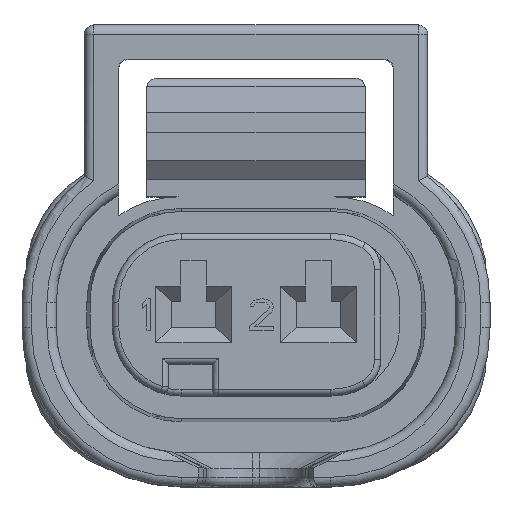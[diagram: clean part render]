
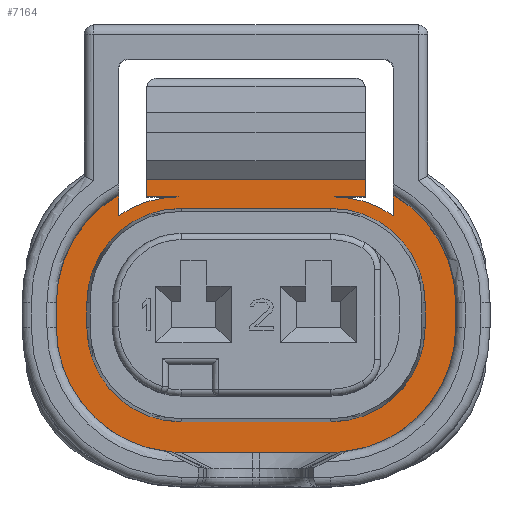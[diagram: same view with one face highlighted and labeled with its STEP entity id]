
A CAD part, top view. The second image highlights one B-rep face of the part: STEP entity #7164.
In plain terms, the highlighted planar face has unit normal (0, 0, 1).
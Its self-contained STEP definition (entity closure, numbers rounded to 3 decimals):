
#133=CARTESIAN_POINT('',(-2.4,0.4,-17.8));
#134=DIRECTION('',(0.,0.,-1.));
#135=DIRECTION('',(-1.,0.,0.));
#136=AXIS2_PLACEMENT_3D('',#133,#134,#135);
#138=CARTESIAN_POINT('',(-2.5,0.5,-17.8));
#139=DIRECTION('',(0.,0.,1.));
#140=DIRECTION('',(0.,1.,0.));
#141=AXIS2_PLACEMENT_3D('',#138,#139,#140);
#143=DIRECTION('',(1.,0.,0.));
#144=VECTOR('',#143,7.);
#145=CARTESIAN_POINT('',(-3.5,4.35,-17.8));
#146=LINE('',#145,#144);
#147=CARTESIAN_POINT('',(2.5,0.5,-17.8));
#148=DIRECTION('',(0.,0.,1.));
#149=DIRECTION('',(0.576,0.818,0.));
#150=AXIS2_PLACEMENT_3D('',#147,#148,#149);
#152=DIRECTION('',(0.,1.,0.));
#153=VECTOR('',#152,0.666);
#154=CARTESIAN_POINT('',(4.4,3.198,-17.8));
#155=LINE('',#154,#153);
#156=CARTESIAN_POINT('',(2.4,0.4,-17.8));
#157=DIRECTION('',(0.,0.,-1.));
#158=DIRECTION('',(0.5,0.866,0.));
#159=AXIS2_PLACEMENT_3D('',#156,#157,#158);
#161=DIRECTION('',(0.,-1.,0.));
#162=VECTOR('',#161,0.8);
#163=CARTESIAN_POINT('',(6.4,0.4,-17.8));
#164=LINE('',#163,#162);
#165=CARTESIAN_POINT('',(2.4,-0.4,-17.8));
#166=DIRECTION('',(0.,0.,-1.));
#167=DIRECTION('',(1.,0.,0.));
#168=AXIS2_PLACEMENT_3D('',#165,#166,#167);
#170=DIRECTION('',(-1.,0.,0.));
#171=VECTOR('',#170,4.8);
#172=CARTESIAN_POINT('',(2.4,-4.4,-17.8));
#173=LINE('',#172,#171);
#174=CARTESIAN_POINT('',(-2.4,-0.4,-17.8));
#175=DIRECTION('',(0.,0.,-1.));
#176=DIRECTION('',(0.,-1.,0.));
#177=AXIS2_PLACEMENT_3D('',#174,#175,#176);
#179=DIRECTION('',(0.,1.,0.));
#180=VECTOR('',#179,0.8);
#181=CARTESIAN_POINT('',(-6.4,-0.4,-17.8));
#182=LINE('',#181,#180);
#183=CARTESIAN_POINT('',(-2.4,0.4,-17.8));
#184=DIRECTION('',(0.,0.,-1.));
#185=DIRECTION('',(-1.,0.,0.));
#186=AXIS2_PLACEMENT_3D('',#183,#184,#185);
#188=DIRECTION('',(0.,-1.,0.));
#189=VECTOR('',#188,0.666);
#190=CARTESIAN_POINT('',(-4.4,3.864,-17.8));
#191=LINE('',#190,#189);
#192=DIRECTION('',(0.,1.,0.));
#193=VECTOR('',#192,0.8);
#194=CARTESIAN_POINT('',(-5.1,-0.4,-17.8));
#195=LINE('',#194,#193);
#2978=DIRECTION('',(1.,0.,0.));
#2979=VECTOR('',#2978,4.8);
#2980=CARTESIAN_POINT('',(-2.4,3.1,-17.8));
#2981=LINE('',#2980,#2979);
#2986=CARTESIAN_POINT('',(2.4,0.4,-17.8));
#2987=DIRECTION('',(0.,0.,-1.));
#2988=DIRECTION('',(0.,1.,0.));
#2989=AXIS2_PLACEMENT_3D('',#2986,#2987,#2988);
#2995=DIRECTION('',(0.,-1.,0.));
#2996=VECTOR('',#2995,0.8);
#2997=CARTESIAN_POINT('',(5.1,0.4,-17.8));
#2998=LINE('',#2997,#2996);
#3003=CARTESIAN_POINT('',(2.4,-0.4,-17.8));
#3004=DIRECTION('',(0.,0.,-1.));
#3005=DIRECTION('',(1.,0.,0.));
#3006=AXIS2_PLACEMENT_3D('',#3003,#3004,#3005);
#3012=DIRECTION('',(-1.,0.,0.));
#3013=VECTOR('',#3012,4.8);
#3014=CARTESIAN_POINT('',(2.4,-3.1,-17.8));
#3015=LINE('',#3014,#3013);
#3020=CARTESIAN_POINT('',(-2.4,-0.4,-17.8));
#3021=DIRECTION('',(0.,0.,-1.));
#3022=DIRECTION('',(0.,-1.,0.));
#3023=AXIS2_PLACEMENT_3D('',#3020,#3021,#3022);
#5361=DIRECTION('',(1.,0.,0.));
#5362=VECTOR('',#5361,1.);
#5363=CARTESIAN_POINT('',(2.5,3.8,-17.8));
#5364=LINE('',#5363,#5362);
#5378=DIRECTION('',(1.,0.,0.));
#5379=VECTOR('',#5378,1.);
#5380=CARTESIAN_POINT('',(-3.5,3.8,-17.8));
#5381=LINE('',#5380,#5379);
#5435=DIRECTION('',(0.,-1.,0.));
#5436=VECTOR('',#5435,0.55);
#5437=CARTESIAN_POINT('',(3.5,4.35,-17.8));
#5438=LINE('',#5437,#5436);
#5511=DIRECTION('',(0.,-1.,0.));
#5512=VECTOR('',#5511,0.55);
#5513=CARTESIAN_POINT('',(-3.5,4.35,-17.8));
#5514=LINE('',#5513,#5512);
#5847=CARTESIAN_POINT('',(6.4,0.4,-17.8));
#5848=CARTESIAN_POINT('',(6.4,-0.4,-17.8));
#5849=VERTEX_POINT('',#5847);
#5850=VERTEX_POINT('',#5848);
#5851=CARTESIAN_POINT('',(2.4,-4.4,-17.8));
#5852=VERTEX_POINT('',#5851);
#5853=CARTESIAN_POINT('',(-2.4,-4.4,-17.8));
#5854=VERTEX_POINT('',#5853);
#5855=CARTESIAN_POINT('',(-6.4,-0.4,-17.8));
#5856=VERTEX_POINT('',#5855);
#5857=CARTESIAN_POINT('',(-6.4,0.4,-17.8));
#5858=VERTEX_POINT('',#5857);
#5859=CARTESIAN_POINT('',(-5.1,0.4,-17.8));
#5860=CARTESIAN_POINT('',(-2.4,3.1,-17.8));
#5861=VERTEX_POINT('',#5859);
#5862=VERTEX_POINT('',#5860);
#5863=CARTESIAN_POINT('',(2.4,3.1,-17.8));
#5864=VERTEX_POINT('',#5863);
#5865=CARTESIAN_POINT('',(5.1,0.4,-17.8));
#5866=VERTEX_POINT('',#5865);
#5867=CARTESIAN_POINT('',(5.1,-0.4,-17.8));
#5868=VERTEX_POINT('',#5867);
#5869=CARTESIAN_POINT('',(2.4,-3.1,-17.8));
#5870=VERTEX_POINT('',#5869);
#5871=CARTESIAN_POINT('',(-2.4,-3.1,-17.8));
#5872=VERTEX_POINT('',#5871);
#5873=CARTESIAN_POINT('',(-5.1,-0.4,-17.8));
#5874=VERTEX_POINT('',#5873);
#6131=CARTESIAN_POINT('',(-4.4,3.864,-17.8));
#6132=CARTESIAN_POINT('',(-4.4,3.198,-17.8));
#6133=VERTEX_POINT('',#6131);
#6134=VERTEX_POINT('',#6132);
#6135=CARTESIAN_POINT('',(4.4,3.198,-17.8));
#6136=CARTESIAN_POINT('',(4.4,3.864,-17.8));
#6137=VERTEX_POINT('',#6135);
#6138=VERTEX_POINT('',#6136);
#6632=CARTESIAN_POINT('',(-3.5,4.35,-17.8));
#6633=VERTEX_POINT('',#6632);
#6634=CARTESIAN_POINT('',(-3.5,3.8,-17.8));
#6635=VERTEX_POINT('',#6634);
#6636=CARTESIAN_POINT('',(3.5,4.35,-17.8));
#6637=VERTEX_POINT('',#6636);
#6638=CARTESIAN_POINT('',(3.5,3.8,-17.8));
#6639=VERTEX_POINT('',#6638);
#6690=CARTESIAN_POINT('',(-2.5,3.8,-17.8));
#6691=VERTEX_POINT('',#6690);
#6692=CARTESIAN_POINT('',(2.5,3.8,-17.8));
#6693=VERTEX_POINT('',#6692);
#7108=CARTESIAN_POINT('',(-2.4,4.4,-17.8));
#7109=DIRECTION('',(0.,0.,1.));
#7110=DIRECTION('',(0.,-1.,0.));
#7111=AXIS2_PLACEMENT_3D('',#7108,#7109,#7110);
#7112=PLANE('',#7111);
#7114=ORIENTED_EDGE('',*,*,#7113,.F.);
#7116=ORIENTED_EDGE('',*,*,#7115,.F.);
#7118=ORIENTED_EDGE('',*,*,#7117,.F.);
#7120=ORIENTED_EDGE('',*,*,#7119,.T.);
#7122=ORIENTED_EDGE('',*,*,#7121,.T.);
#7124=ORIENTED_EDGE('',*,*,#7123,.F.);
#7126=ORIENTED_EDGE('',*,*,#7125,.F.);
#7128=ORIENTED_EDGE('',*,*,#7127,.T.);
#7130=ORIENTED_EDGE('',*,*,#7129,.T.);
#7132=ORIENTED_EDGE('',*,*,#7131,.T.);
#7134=ORIENTED_EDGE('',*,*,#7133,.T.);
#7136=ORIENTED_EDGE('',*,*,#7135,.T.);
#7138=ORIENTED_EDGE('',*,*,#7137,.T.);
#7140=ORIENTED_EDGE('',*,*,#7139,.T.);
#7142=ORIENTED_EDGE('',*,*,#7141,.T.);
#7144=ORIENTED_EDGE('',*,*,#7143,.T.);
#7145=EDGE_LOOP('',(#7114,#7116,#7118,#7120,#7122,#7124,#7126,#7128,#7130,#7132,
#7134,#7136,#7138,#7140,#7142,#7144));
#7146=FACE_OUTER_BOUND('',#7145,.F.);
#7147=ORIENTED_EDGE('',*,*,#7097,.F.);
#7149=ORIENTED_EDGE('',*,*,#7148,.F.);
#7151=ORIENTED_EDGE('',*,*,#7150,.F.);
#7153=ORIENTED_EDGE('',*,*,#7152,.F.);
#7155=ORIENTED_EDGE('',*,*,#7154,.F.);
#7157=ORIENTED_EDGE('',*,*,#7156,.F.);
#7159=ORIENTED_EDGE('',*,*,#7158,.F.);
#7161=ORIENTED_EDGE('',*,*,#7160,.F.);
#7162=EDGE_LOOP('',(#7147,#7149,#7151,#7153,#7155,#7157,#7159,#7161));
#7163=FACE_BOUND('',#7162,.F.);
#7164=ADVANCED_FACE('',(#7146,#7163),#7112,.T.);
#137=CIRCLE('',#136,2.7);
#142=CIRCLE('',#141,3.3);
#151=CIRCLE('',#150,3.3);
#160=CIRCLE('',#159,4.);
#169=CIRCLE('',#168,4.);
#178=CIRCLE('',#177,4.);
#187=CIRCLE('',#186,4.);
#2990=CIRCLE('',#2989,2.7);
#3007=CIRCLE('',#3006,2.7);
#3024=CIRCLE('',#3023,2.7);
#7097=EDGE_CURVE('',#5861,#5862,#137,.T.);
#7113=EDGE_CURVE('',#6691,#6134,#142,.T.);
#7115=EDGE_CURVE('',#6635,#6691,#5381,.T.);
#7117=EDGE_CURVE('',#6633,#6635,#5514,.T.);
#7119=EDGE_CURVE('',#6633,#6637,#146,.T.);
#7121=EDGE_CURVE('',#6637,#6639,#5438,.T.);
#7123=EDGE_CURVE('',#6693,#6639,#5364,.T.);
#7125=EDGE_CURVE('',#6137,#6693,#151,.T.);
#7127=EDGE_CURVE('',#6137,#6138,#155,.T.);
#7129=EDGE_CURVE('',#6138,#5849,#160,.T.);
#7131=EDGE_CURVE('',#5849,#5850,#164,.T.);
#7133=EDGE_CURVE('',#5850,#5852,#169,.T.);
#7135=EDGE_CURVE('',#5852,#5854,#173,.T.);
#7137=EDGE_CURVE('',#5854,#5856,#178,.T.);
#7139=EDGE_CURVE('',#5856,#5858,#182,.T.);
#7141=EDGE_CURVE('',#5858,#6133,#187,.T.);
#7143=EDGE_CURVE('',#6133,#6134,#191,.T.);
#7148=EDGE_CURVE('',#5874,#5861,#195,.T.);
#7150=EDGE_CURVE('',#5872,#5874,#3024,.T.);
#7152=EDGE_CURVE('',#5870,#5872,#3015,.T.);
#7154=EDGE_CURVE('',#5868,#5870,#3007,.T.);
#7156=EDGE_CURVE('',#5866,#5868,#2998,.T.);
#7158=EDGE_CURVE('',#5864,#5866,#2990,.T.);
#7160=EDGE_CURVE('',#5862,#5864,#2981,.T.);
